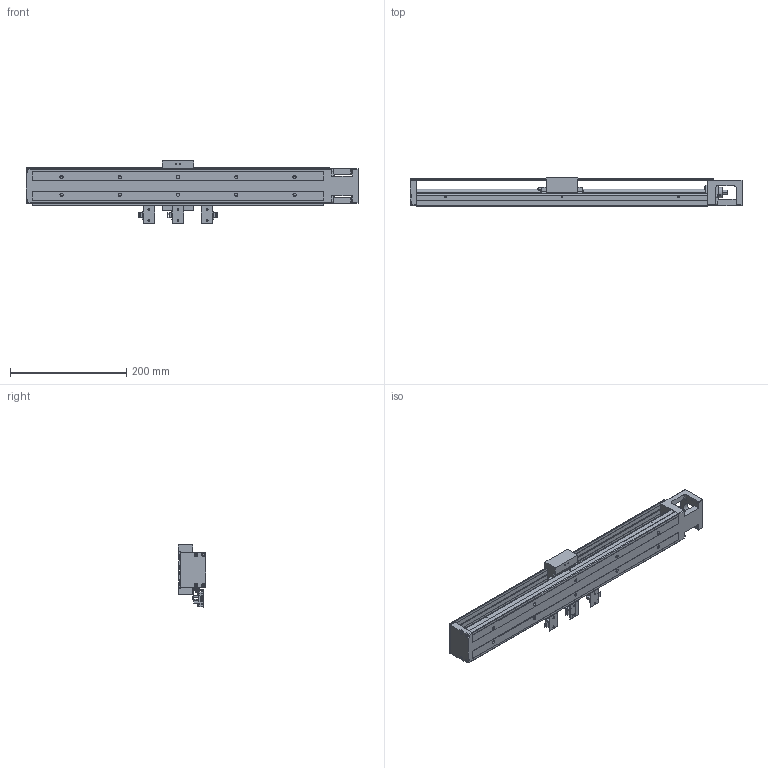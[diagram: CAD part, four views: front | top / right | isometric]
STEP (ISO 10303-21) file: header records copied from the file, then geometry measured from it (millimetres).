
FILE_DESCRIPTION (( 'STEP AP203' ), '1' );
FILE_NAME ('HKK60D10C-500A1-F0CS1.stp', '2021-11-29T03:41:10', ( '' ), ( '' ), 'SwSTEP 2.0', 'SolidWorks 2018', '' );
FILE_SCHEMA (( 'CONFIG_CONTROL_DESIGN' ));
Length unit declared in the file: millimetre
Products named in the file (1): HKK60D10C-500A1-F0CS1
Bounding box: 570 x 48 x 106.85 mm (x, y, z)
Volume: 716654.1 mm3; surface area: 275216.6 mm2
Topology: 6 solids, 20 shells, 1440 faces, 3639 edges, 2313 vertices
Faces by surface type: plane 880, cylinder 412, cone 114, torus 32, bspline 2
Entity records: 43175 total; most frequent: CARTESIAN_POINT 8616, ORIENTED_EDGE 7170, DIRECTION 7059, EDGE_CURVE 3585, LINE 2485, VECTOR 2485, VERTEX_POINT 2313, AXIS2_PLACEMENT_3D 2287
